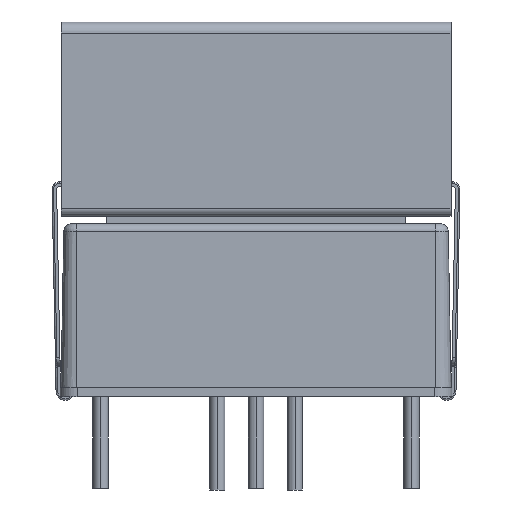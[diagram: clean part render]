
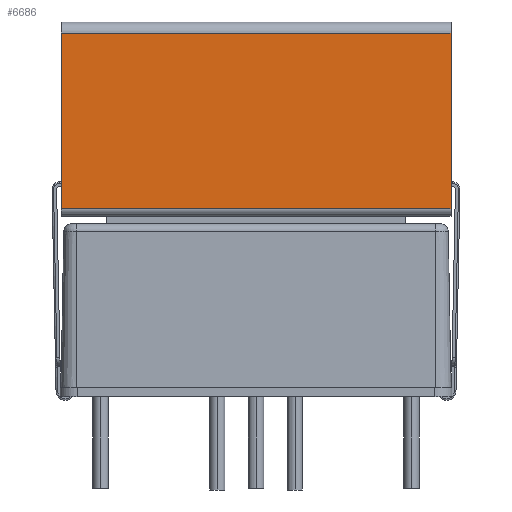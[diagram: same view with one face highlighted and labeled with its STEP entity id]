
A CAD part, left-side view. The second image highlights one B-rep face of the part: STEP entity #6686.
In plain terms, the highlighted planar face has unit normal (-1, 0, 0).
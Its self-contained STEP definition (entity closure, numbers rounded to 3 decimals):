
#5 = VECTOR ( 'NONE', #3401, 1000. ) ;
#95 = LINE ( 'NONE', #4776, #3320 ) ;
#511 = CARTESIAN_POINT ( 'NONE',  ( -12.75, 12.75, 11.7 ) ) ;
#655 = ORIENTED_EDGE ( 'NONE', *, *, #4897, .F. ) ;
#1141 = DIRECTION ( 'NONE',  ( 0., -1., 0. ) ) ;
#1655 = DIRECTION ( 'NONE',  ( -1., 0., 0. ) ) ;
#1688 = CARTESIAN_POINT ( 'NONE',  ( -12.75, 12.75, 23.15 ) ) ;
#2235 = LINE ( 'NONE', #7599, #3796 ) ;
#2617 = EDGE_CURVE ( 'NONE', #7038, #3644, #2235, .T. ) ;
#2652 = ORIENTED_EDGE ( 'NONE', *, *, #2617, .T. ) ;
#3296 = VERTEX_POINT ( 'NONE', #6895 ) ;
#3320 = VECTOR ( 'NONE', #5638, 1000. ) ;
#3401 = DIRECTION ( 'NONE',  ( 0., 0., -1. ) ) ;
#3644 = VERTEX_POINT ( 'NONE', #5509 ) ;
#3796 = VECTOR ( 'NONE', #5292, 1000. ) ;
#4069 = LINE ( 'NONE', #5284, #7111 ) ;
#4113 = CARTESIAN_POINT ( 'NONE',  ( -12.75, 12.75, 23.15 ) ) ;
#4534 = CARTESIAN_POINT ( 'NONE',  ( -12.75, 12.75, 23.15 ) ) ;
#4542 = FACE_OUTER_BOUND ( 'NONE', #7414, .T. ) ;
#4613 = LINE ( 'NONE', #4534, #5 ) ;
#4776 = CARTESIAN_POINT ( 'NONE',  ( -12.75, -12.75, 23.15 ) ) ;
#4806 = ORIENTED_EDGE ( 'NONE', *, *, #7069, .T. ) ;
#4897 = EDGE_CURVE ( 'NONE', #3296, #3644, #95, .T. ) ;
#5284 = CARTESIAN_POINT ( 'NONE',  ( -12.75, 12.75, 23.15 ) ) ;
#5292 = DIRECTION ( 'NONE',  ( 0., -1., 0. ) ) ;
#5509 = CARTESIAN_POINT ( 'NONE',  ( -12.75, -12.75, 11.7 ) ) ;
#5544 = ORIENTED_EDGE ( 'NONE', *, *, #6008, .F. ) ;
#5638 = DIRECTION ( 'NONE',  ( 0., 0., -1. ) ) ;
#5770 = DIRECTION ( 'NONE',  ( 0., 0., -1. ) ) ;
#5947 = VERTEX_POINT ( 'NONE', #1688 ) ;
#6008 = EDGE_CURVE ( 'NONE', #5947, #3296, #4069, .T. ) ;
#6686 = ADVANCED_FACE ( 'NONE', ( #4542 ), #7099, .T. ) ;
#6895 = CARTESIAN_POINT ( 'NONE',  ( -12.75, -12.75, 23.15 ) ) ;
#7038 = VERTEX_POINT ( 'NONE', #511 ) ;
#7069 = EDGE_CURVE ( 'NONE', #5947, #7038, #4613, .T. ) ;
#7099 = PLANE ( 'NONE',  #7735 ) ;
#7111 = VECTOR ( 'NONE', #1141, 1000. ) ;
#7414 = EDGE_LOOP ( 'NONE', ( #4806, #2652, #655, #5544 ) ) ;
#7599 = CARTESIAN_POINT ( 'NONE',  ( -12.75, 12.75, 11.7 ) ) ;
#7735 = AXIS2_PLACEMENT_3D ( 'NONE', #4113, #1655, #5770 ) ;
